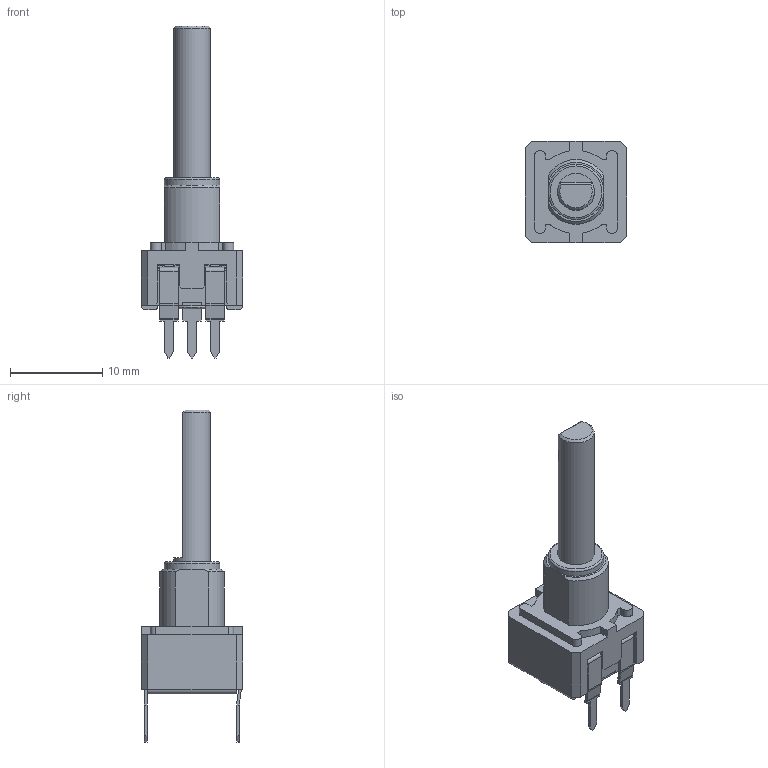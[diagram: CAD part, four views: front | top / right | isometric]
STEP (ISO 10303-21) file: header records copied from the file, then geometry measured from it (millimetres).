
FILE_DESCRIPTION(/* description */ (''),/* implementation_level */ '2;1');
FILE_NAME(/* name */ 'C:\Users\CEM\Desktop\ENVIAR\TRANSICION 3D CATALOGOS\MCA9DV10 WT-9020-NE.stp',/* time_stamp */ '2025-11-20T10:58:06+01:00',/* author */ ('CEM'),/* organization */ (''),/* preprocessor_version */ 'ST-DEVELOPER v16.13',/* originating_system */ 'Autodesk Inventor 2018',/* authorisation */ '');
FILE_SCHEMA (('AUTOMOTIVE_DESIGN { 1 0 10303 214 3 1 1 }'));
Length unit declared in the file: millimetre
Products named in the file (1): MCA9DV10 WT-9020-NE
Bounding box: 11 x 11 x 35.9 mm (x, y, z)
Volume: 941.6 mm3; surface area: 2112.7 mm2
Topology: 2 solids, 3 shells, 737 faces, 2064 edges, 1325 vertices
Faces by surface type: plane 564, cylinder 127, torus 24, cone 22
Full cylindrical faces by diameter (mm): 2.8 x1, 3 x1, 3.1 x1, 4 x3, 4.15 x1, 4.7 x1, 4.8 x1, 5 x1, 6 x1
Entity records: 24121 total; most frequent: CARTESIAN_POINT 4272, ORIENTED_EDGE 4074, DIRECTION 3842, EDGE_CURVE 2035, LINE 1620, VECTOR 1620, VERTEX_POINT 1317, AXIS2_PLACEMENT_3D 1111
